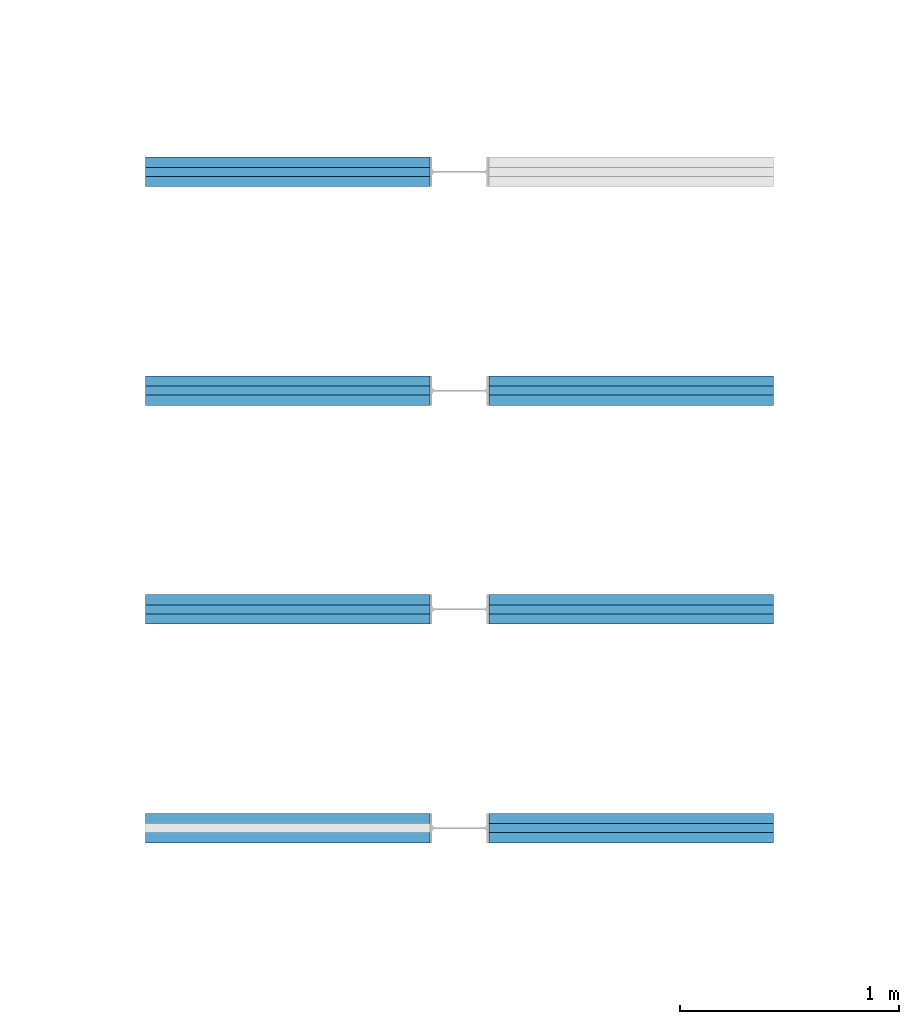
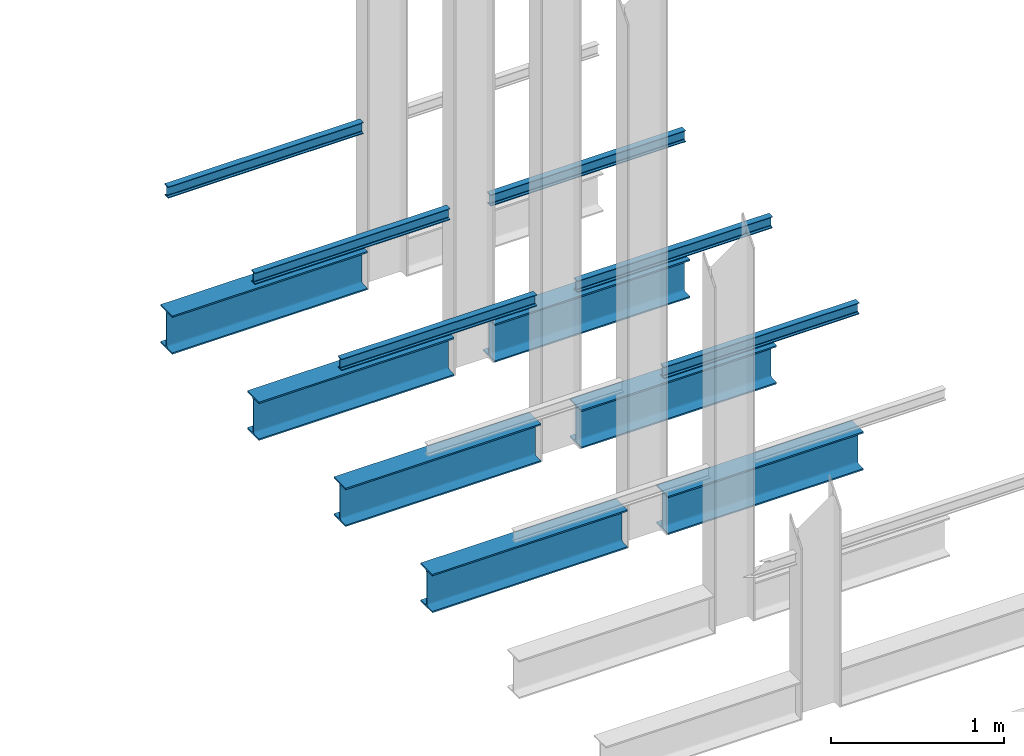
# One storey, part 182 of 302: 13 beams.
"""IFC2X3 building model written with IfcOpenShell, lengths in metres."""

from ifc_helpers import new_model, entity, si_unit, converted_unit, derived_unit, direction, frame, frame_2d, origin, place, context, subcontext, project, spatial, polyline, circle_curve, parameter, trimmed, segment, composite_curve, i_section, outline, extrude, material, type_object, element, save


model = new_model("IFC2X3")

# Units and contexts
model_context = context("Model", 3, precision=1e-05, world=origin(), true_north=direction((6.12303176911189e-17, 1.0)))
body_context = subcontext(model_context, "Body", "Model", "MODEL_VIEW")
ifc_project = project(units=[si_unit("LENGTHUNIT", "METRE"), si_unit("AREAUNIT", "SQUARE_METRE"), si_unit("VOLUMEUNIT", "CUBIC_METRE"), converted_unit("PLANEANGLEUNIT", "DEGREE", entity("IfcRatioMeasure", 0.0174532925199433), si_unit("PLANEANGLEUNIT", "RADIAN"), dimensions=[0, 0, 0, 0, 0, 0, 0]), si_unit("MASSUNIT", "GRAM", prefix="KILO"), derived_unit("MASSDENSITYUNIT", [(si_unit("MASSUNIT", "GRAM", prefix="KILO"), 1), (si_unit("LENGTHUNIT", "METRE"), -3)]), derived_unit("MOMENTOFINERTIAUNIT", [(si_unit("LENGTHUNIT", "METRE"), 4)]), si_unit("TIMEUNIT", "SECOND"), si_unit("FREQUENCYUNIT", "HERTZ"), si_unit("THERMODYNAMICTEMPERATUREUNIT", "DEGREE_CELSIUS"), derived_unit("THERMALTRANSMITTANCEUNIT", [(si_unit("MASSUNIT", "GRAM", prefix="KILO"), 1), (si_unit("THERMODYNAMICTEMPERATUREUNIT", "KELVIN"), -1), (si_unit("TIMEUNIT", "SECOND"), -3)]), derived_unit("VOLUMETRICFLOWRATEUNIT", [(si_unit("LENGTHUNIT", "METRE"), 3), (si_unit("TIMEUNIT", "SECOND"), -1)]), si_unit("ELECTRICCURRENTUNIT", "AMPERE"), si_unit("ELECTRICVOLTAGEUNIT", "VOLT"), si_unit("POWERUNIT", "WATT"), si_unit("FORCEUNIT", "NEWTON", prefix="KILO"), si_unit("ILLUMINANCEUNIT", "LUX"), si_unit("LUMINOUSFLUXUNIT", "LUMEN"), si_unit("LUMINOUSINTENSITYUNIT", "CANDELA"), derived_unit("USERDEFINED", [(si_unit("MASSUNIT", "GRAM", prefix="KILO"), -1), (si_unit("LENGTHUNIT", "METRE"), -2), (si_unit("TIMEUNIT", "SECOND"), 3), (si_unit("LUMINOUSFLUXUNIT", "LUMEN"), 1)]), derived_unit("LINEARVELOCITYUNIT", [(si_unit("LENGTHUNIT", "METRE"), 1), (si_unit("TIMEUNIT", "SECOND"), -1)]), si_unit("PRESSUREUNIT", "PASCAL"), derived_unit("USERDEFINED", [(si_unit("LENGTHUNIT", "METRE"), -2), (si_unit("MASSUNIT", "GRAM", prefix="KILO"), 1), (si_unit("TIMEUNIT", "SECOND"), -2)]), derived_unit("LINEARFORCEUNIT", [(si_unit("MASSUNIT", "GRAM", prefix="KILO"), 1), (si_unit("LENGTHUNIT", "METRE"), 1), (si_unit("TIMEUNIT", "SECOND"), -2), (si_unit("LENGTHUNIT", "METRE"), -1)]), derived_unit("PLANARFORCEUNIT", [(si_unit("MASSUNIT", "GRAM", prefix="KILO"), 1), (si_unit("LENGTHUNIT", "METRE"), 1), (si_unit("TIMEUNIT", "SECOND"), -2), (si_unit("LENGTHUNIT", "METRE"), -2)])], contexts=[model_context])

# Site, building, storey
site_placement = place(None, origin())
site = spatial("IfcSite", under=ifc_project, at=site_placement, Name="Default", CompositionType="ELEMENT")
building_placement = place(site_placement, origin())
building = spatial("IfcBuilding", under=site, at=building_placement, CompositionType="ELEMENT")
storey_placement = place(building_placement, frame((0.0, 0.0, -1.3)))
storey = spatial("IfcBuildingStorey", under=building, at=storey_placement, Name="00_EG", CompositionType="ELEMENT", Elevation=-1.3)

# Beams
ifc_material = material(Name="Metall - Baustahl S235")
beam_type_1 = type_object("IfcBeamType", Name="IPN Träger:IPN 80", PredefinedType="NOTDEFINED")
beam_1_placement = place(storey_placement, frame((-170.780111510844, 55.0365889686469, 2.42), z_axis=(0.0, 0.0, 1.0), x_axis=(-1.0, 0.0, 0.0)))
element("IfcBeam", 1, at=beam_1_placement, inside=storey, type_object=beam_type_1, material=ifc_material, Name="IPN Träger:IPN 80", ObjectType="IPN Träger:IPN 80", context=body_context, shape_type="SweptSolid", body=[
    extrude(outline(composite_curve([segment(polyline([(0.0375704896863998, -0.0209999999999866), (0.0399999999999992, -0.0209999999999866)]), True, "CONTINUOUS"), segment(polyline([(0.0399999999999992, -0.0209999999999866), (0.0399999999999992, 0.0210000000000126)]), True, "CONTINUOUS"), segment(polyline([(0.039999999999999, 0.0210000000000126), (0.037570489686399, 0.0210000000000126)]), True, "CONTINUOUS"), segment(trimmed(circle_curve(frame_2d((0.0375704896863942, 0.0187000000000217), x_axis=(0.0, 1.0)), 0.0022999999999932), [parameter(0.0)], [parameter(82.0300000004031)], True, "PARAMETER"), True, "CONTINUOUS"), segment(polyline([(0.0352927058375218, 0.0190189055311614), (0.0333732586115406, 0.00530924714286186)]), True, "CONTINUOUS"), segment(trimmed(circle_curve(frame_2d((0.0295109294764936, 0.00585000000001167), x_axis=(0.990340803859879, -0.138654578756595)), 0.00389999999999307), [parameter(277.969999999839)], [parameter(0.0)], True, "PARAMETER"), False, "CONTINUOUS"), segment(polyline([(0.0295109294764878, 0.00195000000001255), (-0.0295109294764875, 0.00195000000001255)]), True, "CONTINUOUS"), segment(trimmed(circle_curve(frame_2d((-0.0295109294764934, 0.00585000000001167), x_axis=(0.0, -1.0)), 0.00389999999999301), [parameter(277.969999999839)], [parameter(0.0)], True, "PARAMETER"), False, "CONTINUOUS"), segment(polyline([(-0.0333732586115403, 0.00530924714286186), (-0.0352927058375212, 0.0190189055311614)]), True, "CONTINUOUS"), segment(trimmed(circle_curve(frame_2d((-0.0375704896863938, 0.0187000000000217), x_axis=(0.990340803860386, 0.138654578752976)), 0.00229999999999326), [parameter(0.0)], [parameter(82.0300000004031)], True, "PARAMETER"), True, "CONTINUOUS"), segment(polyline([(-0.0375704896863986, 0.0210000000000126), (-0.0400000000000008, 0.0210000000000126)]), True, "CONTINUOUS"), segment(polyline([(-0.0400000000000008, 0.0210000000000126), (-0.0400000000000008, -0.0209999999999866)]), True, "CONTINUOUS"), segment(polyline([(-0.0400000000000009, -0.0209999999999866), (-0.037570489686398, -0.0209999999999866)]), True, "CONTINUOUS"), segment(trimmed(circle_curve(frame_2d((-0.0375704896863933, -0.0186999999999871), x_axis=(0.0, -1.0)), 0.00229999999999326), [parameter(0.0)], [parameter(82.0300000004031)], True, "PARAMETER"), True, "CONTINUOUS"), segment(polyline([(-0.0352927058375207, -0.0190189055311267), (-0.0333732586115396, -0.00530924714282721)]), True, "CONTINUOUS"), segment(trimmed(circle_curve(frame_2d((-0.0295109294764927, -0.00584999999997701), x_axis=(-0.990340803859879, 0.138654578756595)), 0.00389999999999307), [parameter(277.969999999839)], [parameter(0.0)], True, "PARAMETER"), False, "CONTINUOUS"), segment(polyline([(-0.0295109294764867, -0.00194999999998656), (0.0295109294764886, -0.00194999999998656)]), True, "CONTINUOUS"), segment(trimmed(circle_curve(frame_2d((0.0295109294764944, -0.00584999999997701), x_axis=(0.0, 1.0)), 0.00389999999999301), [parameter(277.969999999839)], [parameter(0.0)], True, "PARAMETER"), False, "CONTINUOUS"), segment(polyline([(0.0333732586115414, -0.00530924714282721), (0.0352927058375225, -0.0190189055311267)]), True, "CONTINUOUS"), segment(trimmed(circle_curve(frame_2d((0.0375704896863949, -0.0186999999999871), x_axis=(-0.990340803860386, -0.138654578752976)), 0.00229999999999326), [parameter(0.0)], [parameter(82.0300000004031)], True, "PARAMETER"), True, "CONTINUOUS")], self_intersect=False)), frame((0.000100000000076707, 0.0209999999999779, -0.0400000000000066), z_axis=(1.0, 0.0, 0.0), x_axis=(0.0, 0.0, -1.0)), (0.0, 0.0, 1.0), 1.29990000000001),
])
beam_2_placement = place(storey_placement, frame((-170.510111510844, 53.9945889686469, 2.42)))
element("IfcBeam", 2, at=beam_2_placement, inside=storey, type_object=beam_type_1, material=ifc_material, Name="IPN Träger:IPN 80", ObjectType="IPN Träger:IPN 80", context=body_context, shape_type="SweptSolid", body=[
    extrude(outline(composite_curve([segment(polyline([(0.0375704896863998, -0.0210000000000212), (0.0399999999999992, -0.0210000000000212)]), True, "CONTINUOUS"), segment(polyline([(0.0399999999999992, -0.0210000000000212), (0.0399999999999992, 0.0209999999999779)]), True, "CONTINUOUS"), segment(polyline([(0.039999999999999, 0.0209999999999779), (0.037570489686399, 0.0209999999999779)]), True, "CONTINUOUS"), segment(trimmed(circle_curve(frame_2d((0.0375704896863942, 0.0186999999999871), x_axis=(0.0, 1.0)), 0.0022999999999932), [parameter(0.0)], [parameter(82.0300000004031)], True, "PARAMETER"), True, "CONTINUOUS"), segment(polyline([(0.0352927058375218, 0.0190189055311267), (0.0333732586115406, 0.00530924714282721)]), True, "CONTINUOUS"), segment(trimmed(circle_curve(frame_2d((0.0295109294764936, 0.00584999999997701), x_axis=(0.990340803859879, -0.138654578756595)), 0.00389999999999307), [parameter(277.969999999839)], [parameter(0.0)], True, "PARAMETER"), False, "CONTINUOUS"), segment(polyline([(0.0295109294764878, 0.0019499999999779), (-0.0295109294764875, 0.0019499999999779)]), True, "CONTINUOUS"), segment(trimmed(circle_curve(frame_2d((-0.0295109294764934, 0.00584999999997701), x_axis=(0.0, -1.0)), 0.00389999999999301), [parameter(277.969999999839)], [parameter(0.0)], True, "PARAMETER"), False, "CONTINUOUS"), segment(polyline([(-0.0333732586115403, 0.00530924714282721), (-0.0352927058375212, 0.0190189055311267)]), True, "CONTINUOUS"), segment(trimmed(circle_curve(frame_2d((-0.0375704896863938, 0.0186999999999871), x_axis=(0.990340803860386, 0.138654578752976)), 0.00229999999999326), [parameter(0.0)], [parameter(82.0300000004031)], True, "PARAMETER"), True, "CONTINUOUS"), segment(polyline([(-0.0375704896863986, 0.0209999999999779), (-0.0400000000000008, 0.0209999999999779)]), True, "CONTINUOUS"), segment(polyline([(-0.0400000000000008, 0.0209999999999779), (-0.0400000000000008, -0.0210000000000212)]), True, "CONTINUOUS"), segment(polyline([(-0.0400000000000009, -0.0210000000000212), (-0.037570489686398, -0.0210000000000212)]), True, "CONTINUOUS"), segment(trimmed(circle_curve(frame_2d((-0.0375704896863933, -0.0187000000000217), x_axis=(0.0, -1.0)), 0.00229999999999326), [parameter(0.0)], [parameter(82.0300000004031)], True, "PARAMETER"), True, "CONTINUOUS"), segment(polyline([(-0.0352927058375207, -0.0190189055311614), (-0.0333732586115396, -0.00530924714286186)]), True, "CONTINUOUS"), segment(trimmed(circle_curve(frame_2d((-0.0295109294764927, -0.00585000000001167), x_axis=(-0.990340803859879, 0.138654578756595)), 0.00389999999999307), [parameter(277.969999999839)], [parameter(0.0)], True, "PARAMETER"), False, "CONTINUOUS"), segment(polyline([(-0.0295109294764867, -0.00195000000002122), (0.0295109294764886, -0.00195000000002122)]), True, "CONTINUOUS"), segment(trimmed(circle_curve(frame_2d((0.0295109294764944, -0.00585000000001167), x_axis=(0.0, 1.0)), 0.00389999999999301), [parameter(277.969999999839)], [parameter(0.0)], True, "PARAMETER"), False, "CONTINUOUS"), segment(polyline([(0.0333732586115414, -0.00530924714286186), (0.0352927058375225, -0.0190189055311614)]), True, "CONTINUOUS"), segment(trimmed(circle_curve(frame_2d((0.0375704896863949, -0.0187000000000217), x_axis=(-0.990340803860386, -0.138654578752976)), 0.00229999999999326), [parameter(0.0)], [parameter(82.0300000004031)], True, "PARAMETER"), True, "CONTINUOUS")], self_intersect=False)), frame((0.000100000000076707, 0.0210000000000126, -0.0400000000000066), z_axis=(1.0, 0.0, 0.0), x_axis=(0.0, 0.0, -1.0)), (0.0, 0.0, 1.0), 1.29990000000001),
])
beam_3_placement = place(storey_placement, frame((-170.780111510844, 54.0365889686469, 2.42), z_axis=(0.0, 0.0, 1.0), x_axis=(-1.0, 0.0, 0.0)))
element("IfcBeam", 3, at=beam_3_placement, inside=storey, type_object=beam_type_1, material=ifc_material, Name="IPN Träger:IPN 80", ObjectType="IPN Träger:IPN 80", context=body_context, shape_type="SweptSolid", body=[
    extrude(outline(composite_curve([segment(polyline([(0.0375704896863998, -0.0209999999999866), (0.0399999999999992, -0.0209999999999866)]), True, "CONTINUOUS"), segment(polyline([(0.0399999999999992, -0.0209999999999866), (0.0399999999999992, 0.0210000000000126)]), True, "CONTINUOUS"), segment(polyline([(0.039999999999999, 0.0210000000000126), (0.037570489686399, 0.0210000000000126)]), True, "CONTINUOUS"), segment(trimmed(circle_curve(frame_2d((0.0375704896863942, 0.0187000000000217), x_axis=(0.0, 1.0)), 0.0022999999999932), [parameter(0.0)], [parameter(82.0300000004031)], True, "PARAMETER"), True, "CONTINUOUS"), segment(polyline([(0.0352927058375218, 0.0190189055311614), (0.0333732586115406, 0.00530924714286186)]), True, "CONTINUOUS"), segment(trimmed(circle_curve(frame_2d((0.0295109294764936, 0.00585000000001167), x_axis=(0.990340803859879, -0.138654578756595)), 0.00389999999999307), [parameter(277.969999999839)], [parameter(0.0)], True, "PARAMETER"), False, "CONTINUOUS"), segment(polyline([(0.0295109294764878, 0.00195000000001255), (-0.0295109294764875, 0.00195000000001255)]), True, "CONTINUOUS"), segment(trimmed(circle_curve(frame_2d((-0.0295109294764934, 0.00585000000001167), x_axis=(0.0, -1.0)), 0.00389999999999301), [parameter(277.969999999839)], [parameter(0.0)], True, "PARAMETER"), False, "CONTINUOUS"), segment(polyline([(-0.0333732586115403, 0.00530924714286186), (-0.0352927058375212, 0.0190189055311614)]), True, "CONTINUOUS"), segment(trimmed(circle_curve(frame_2d((-0.0375704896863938, 0.0187000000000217), x_axis=(0.990340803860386, 0.138654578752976)), 0.00229999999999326), [parameter(0.0)], [parameter(82.0300000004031)], True, "PARAMETER"), True, "CONTINUOUS"), segment(polyline([(-0.0375704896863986, 0.0210000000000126), (-0.0400000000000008, 0.0210000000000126)]), True, "CONTINUOUS"), segment(polyline([(-0.0400000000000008, 0.0210000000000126), (-0.0400000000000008, -0.0209999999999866)]), True, "CONTINUOUS"), segment(polyline([(-0.0400000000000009, -0.0209999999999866), (-0.037570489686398, -0.0209999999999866)]), True, "CONTINUOUS"), segment(trimmed(circle_curve(frame_2d((-0.0375704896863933, -0.0186999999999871), x_axis=(0.0, -1.0)), 0.00229999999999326), [parameter(0.0)], [parameter(82.0300000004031)], True, "PARAMETER"), True, "CONTINUOUS"), segment(polyline([(-0.0352927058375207, -0.0190189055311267), (-0.0333732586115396, -0.00530924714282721)]), True, "CONTINUOUS"), segment(trimmed(circle_curve(frame_2d((-0.0295109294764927, -0.00584999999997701), x_axis=(-0.990340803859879, 0.138654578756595)), 0.00389999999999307), [parameter(277.969999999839)], [parameter(0.0)], True, "PARAMETER"), False, "CONTINUOUS"), segment(polyline([(-0.0295109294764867, -0.00194999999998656), (0.0295109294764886, -0.00194999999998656)]), True, "CONTINUOUS"), segment(trimmed(circle_curve(frame_2d((0.0295109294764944, -0.00584999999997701), x_axis=(0.0, 1.0)), 0.00389999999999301), [parameter(277.969999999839)], [parameter(0.0)], True, "PARAMETER"), False, "CONTINUOUS"), segment(polyline([(0.0333732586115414, -0.00530924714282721), (0.0352927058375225, -0.0190189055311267)]), True, "CONTINUOUS"), segment(trimmed(circle_curve(frame_2d((0.0375704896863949, -0.0186999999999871), x_axis=(-0.990340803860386, -0.138654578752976)), 0.00229999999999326), [parameter(0.0)], [parameter(82.0300000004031)], True, "PARAMETER"), True, "CONTINUOUS")], self_intersect=False)), frame((0.000100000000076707, 0.0209999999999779, -0.0400000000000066), z_axis=(1.0, 0.0, 0.0), x_axis=(0.0, 0.0, -1.0)), (0.0, 0.0, 1.0), 1.29990000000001),
])
beam_4_placement = place(storey_placement, frame((-170.510111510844, 52.9945889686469, 2.42)))
element("IfcBeam", 4, at=beam_4_placement, inside=storey, type_object=beam_type_1, material=ifc_material, Name="IPN Träger:IPN 80", ObjectType="IPN Träger:IPN 80", context=body_context, shape_type="SweptSolid", body=[
    extrude(outline(composite_curve([segment(polyline([(0.0375704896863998, -0.0210000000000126), (0.0399999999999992, -0.0210000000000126)]), True, "CONTINUOUS"), segment(polyline([(0.0399999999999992, -0.0210000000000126), (0.0399999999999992, 0.0209999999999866)]), True, "CONTINUOUS"), segment(polyline([(0.039999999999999, 0.0209999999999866), (0.037570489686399, 0.0209999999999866)]), True, "CONTINUOUS"), segment(trimmed(circle_curve(frame_2d((0.0375704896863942, 0.0186999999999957), x_axis=(0.0, 1.0)), 0.0022999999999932), [parameter(0.0)], [parameter(82.0300000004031)], True, "PARAMETER"), True, "CONTINUOUS"), segment(polyline([(0.0352927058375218, 0.0190189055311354), (0.0333732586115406, 0.00530924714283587)]), True, "CONTINUOUS"), segment(trimmed(circle_curve(frame_2d((0.0295109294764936, 0.00584999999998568), x_axis=(0.990340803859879, -0.138654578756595)), 0.00389999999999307), [parameter(277.969999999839)], [parameter(0.0)], True, "PARAMETER"), False, "CONTINUOUS"), segment(polyline([(0.0295109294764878, 0.00194999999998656), (-0.0295109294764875, 0.00194999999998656)]), True, "CONTINUOUS"), segment(trimmed(circle_curve(frame_2d((-0.0295109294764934, 0.00584999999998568), x_axis=(0.0, -1.0)), 0.00389999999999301), [parameter(277.969999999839)], [parameter(0.0)], True, "PARAMETER"), False, "CONTINUOUS"), segment(polyline([(-0.0333732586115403, 0.00530924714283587), (-0.0352927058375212, 0.0190189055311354)]), True, "CONTINUOUS"), segment(trimmed(circle_curve(frame_2d((-0.0375704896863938, 0.0186999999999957), x_axis=(0.990340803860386, 0.138654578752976)), 0.00229999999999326), [parameter(0.0)], [parameter(82.0300000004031)], True, "PARAMETER"), True, "CONTINUOUS"), segment(polyline([(-0.0375704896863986, 0.0209999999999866), (-0.0400000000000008, 0.0209999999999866)]), True, "CONTINUOUS"), segment(polyline([(-0.0400000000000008, 0.0209999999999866), (-0.0400000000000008, -0.0210000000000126)]), True, "CONTINUOUS"), segment(polyline([(-0.0400000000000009, -0.0210000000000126), (-0.037570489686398, -0.0210000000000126)]), True, "CONTINUOUS"), segment(trimmed(circle_curve(frame_2d((-0.0375704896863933, -0.0187000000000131), x_axis=(0.0, -1.0)), 0.00229999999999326), [parameter(0.0)], [parameter(82.0300000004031)], True, "PARAMETER"), True, "CONTINUOUS"), segment(polyline([(-0.0352927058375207, -0.0190189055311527), (-0.0333732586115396, -0.0053092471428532)]), True, "CONTINUOUS"), segment(trimmed(circle_curve(frame_2d((-0.0295109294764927, -0.005850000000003), x_axis=(-0.990340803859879, 0.138654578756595)), 0.00389999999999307), [parameter(277.969999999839)], [parameter(0.0)], True, "PARAMETER"), False, "CONTINUOUS"), segment(polyline([(-0.0295109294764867, -0.00195000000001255), (0.0295109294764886, -0.00195000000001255)]), True, "CONTINUOUS"), segment(trimmed(circle_curve(frame_2d((0.0295109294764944, -0.005850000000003), x_axis=(0.0, 1.0)), 0.00389999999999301), [parameter(277.969999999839)], [parameter(0.0)], True, "PARAMETER"), False, "CONTINUOUS"), segment(polyline([(0.0333732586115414, -0.0053092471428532), (0.0352927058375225, -0.0190189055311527)]), True, "CONTINUOUS"), segment(trimmed(circle_curve(frame_2d((0.0375704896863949, -0.0187000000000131), x_axis=(-0.990340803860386, -0.138654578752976)), 0.00229999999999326), [parameter(0.0)], [parameter(82.0300000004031)], True, "PARAMETER"), True, "CONTINUOUS")], self_intersect=False)), frame((0.000100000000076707, 0.0210000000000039, -0.0400000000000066), z_axis=(1.0, 0.0, 0.0), x_axis=(0.0, 0.0, -1.0)), (0.0, 0.0, 1.0), 1.29990000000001),
])
beam_5_placement = place(storey_placement, frame((-170.780111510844, 53.0365889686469, 2.42), z_axis=(0.0, 0.0, 1.0), x_axis=(-1.0, 0.0, 0.0)))
element("IfcBeam", 5, at=beam_5_placement, inside=storey, type_object=beam_type_1, material=ifc_material, Name="IPN Träger:IPN 80", ObjectType="IPN Träger:IPN 80", context=body_context, shape_type="SweptSolid", body=[
    extrude(outline(composite_curve([segment(polyline([(0.0375704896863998, -0.0210000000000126), (0.0399999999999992, -0.0210000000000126)]), True, "CONTINUOUS"), segment(polyline([(0.0399999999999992, -0.0210000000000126), (0.0399999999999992, 0.0209999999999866)]), True, "CONTINUOUS"), segment(polyline([(0.039999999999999, 0.0209999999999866), (0.037570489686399, 0.0209999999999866)]), True, "CONTINUOUS"), segment(trimmed(circle_curve(frame_2d((0.0375704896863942, 0.0186999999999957), x_axis=(0.0, 1.0)), 0.0022999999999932), [parameter(0.0)], [parameter(82.0300000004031)], True, "PARAMETER"), True, "CONTINUOUS"), segment(polyline([(0.0352927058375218, 0.0190189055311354), (0.0333732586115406, 0.00530924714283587)]), True, "CONTINUOUS"), segment(trimmed(circle_curve(frame_2d((0.0295109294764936, 0.00584999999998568), x_axis=(0.990340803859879, -0.138654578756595)), 0.00389999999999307), [parameter(277.969999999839)], [parameter(0.0)], True, "PARAMETER"), False, "CONTINUOUS"), segment(polyline([(0.0295109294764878, 0.00194999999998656), (-0.0295109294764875, 0.00194999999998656)]), True, "CONTINUOUS"), segment(trimmed(circle_curve(frame_2d((-0.0295109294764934, 0.00584999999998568), x_axis=(0.0, -1.0)), 0.00389999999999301), [parameter(277.969999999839)], [parameter(0.0)], True, "PARAMETER"), False, "CONTINUOUS"), segment(polyline([(-0.0333732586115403, 0.00530924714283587), (-0.0352927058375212, 0.0190189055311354)]), True, "CONTINUOUS"), segment(trimmed(circle_curve(frame_2d((-0.0375704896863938, 0.0186999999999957), x_axis=(0.990340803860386, 0.138654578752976)), 0.00229999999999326), [parameter(0.0)], [parameter(82.0300000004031)], True, "PARAMETER"), True, "CONTINUOUS"), segment(polyline([(-0.0375704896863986, 0.0209999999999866), (-0.0400000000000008, 0.0209999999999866)]), True, "CONTINUOUS"), segment(polyline([(-0.0400000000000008, 0.0209999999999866), (-0.0400000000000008, -0.0210000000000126)]), True, "CONTINUOUS"), segment(polyline([(-0.0400000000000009, -0.0210000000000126), (-0.037570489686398, -0.0210000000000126)]), True, "CONTINUOUS"), segment(trimmed(circle_curve(frame_2d((-0.0375704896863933, -0.0187000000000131), x_axis=(0.0, -1.0)), 0.00229999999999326), [parameter(0.0)], [parameter(82.0300000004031)], True, "PARAMETER"), True, "CONTINUOUS"), segment(polyline([(-0.0352927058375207, -0.0190189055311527), (-0.0333732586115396, -0.0053092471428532)]), True, "CONTINUOUS"), segment(trimmed(circle_curve(frame_2d((-0.0295109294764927, -0.005850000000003), x_axis=(-0.990340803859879, 0.138654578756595)), 0.00389999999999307), [parameter(277.969999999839)], [parameter(0.0)], True, "PARAMETER"), False, "CONTINUOUS"), segment(polyline([(-0.0295109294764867, -0.00195000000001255), (0.0295109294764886, -0.00195000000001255)]), True, "CONTINUOUS"), segment(trimmed(circle_curve(frame_2d((0.0295109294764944, -0.005850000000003), x_axis=(0.0, 1.0)), 0.00389999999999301), [parameter(277.969999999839)], [parameter(0.0)], True, "PARAMETER"), False, "CONTINUOUS"), segment(polyline([(0.0333732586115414, -0.0053092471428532), (0.0352927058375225, -0.0190189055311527)]), True, "CONTINUOUS"), segment(trimmed(circle_curve(frame_2d((0.0375704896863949, -0.0187000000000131), x_axis=(-0.990340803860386, -0.138654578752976)), 0.00229999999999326), [parameter(0.0)], [parameter(82.0300000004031)], True, "PARAMETER"), True, "CONTINUOUS")], self_intersect=False)), frame((0.000100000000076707, 0.0210000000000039, -0.0400000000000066), z_axis=(1.0, 0.0, 0.0), x_axis=(0.0, 0.0, -1.0)), (0.0, 0.0, 1.0), 1.29990000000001),
])
beam_6_placement = place(storey_placement, frame((-170.510111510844, 51.9945889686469, 2.42)))
element("IfcBeam", 6, at=beam_6_placement, inside=storey, type_object=beam_type_1, material=ifc_material, Name="IPN Träger:IPN 80", ObjectType="IPN Träger:IPN 80", context=body_context, shape_type="SweptSolid", body=[
    extrude(outline(composite_curve([segment(polyline([(0.0375704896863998, -0.0209999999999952), (0.0399999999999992, -0.0209999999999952)]), True, "CONTINUOUS"), segment(polyline([(0.0399999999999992, -0.0209999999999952), (0.0399999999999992, 0.0210000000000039)]), True, "CONTINUOUS"), segment(polyline([(0.039999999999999, 0.0210000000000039), (0.037570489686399, 0.0210000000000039)]), True, "CONTINUOUS"), segment(trimmed(circle_curve(frame_2d((0.0375704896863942, 0.0187000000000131), x_axis=(0.0, 1.0)), 0.0022999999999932), [parameter(0.0)], [parameter(82.0300000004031)], True, "PARAMETER"), True, "CONTINUOUS"), segment(polyline([(0.0352927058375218, 0.0190189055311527), (0.0333732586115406, 0.0053092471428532)]), True, "CONTINUOUS"), segment(trimmed(circle_curve(frame_2d((0.0295109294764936, 0.005850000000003), x_axis=(0.990340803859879, -0.138654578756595)), 0.00389999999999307), [parameter(277.969999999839)], [parameter(0.0)], True, "PARAMETER"), False, "CONTINUOUS"), segment(polyline([(0.0295109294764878, 0.00195000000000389), (-0.0295109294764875, 0.00195000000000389)]), True, "CONTINUOUS"), segment(trimmed(circle_curve(frame_2d((-0.0295109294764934, 0.005850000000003), x_axis=(0.0, -1.0)), 0.00389999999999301), [parameter(277.969999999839)], [parameter(0.0)], True, "PARAMETER"), False, "CONTINUOUS"), segment(polyline([(-0.0333732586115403, 0.0053092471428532), (-0.0352927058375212, 0.0190189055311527)]), True, "CONTINUOUS"), segment(trimmed(circle_curve(frame_2d((-0.0375704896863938, 0.0187000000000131), x_axis=(0.990340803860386, 0.138654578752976)), 0.00229999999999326), [parameter(0.0)], [parameter(82.0300000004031)], True, "PARAMETER"), True, "CONTINUOUS"), segment(polyline([(-0.0375704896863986, 0.0210000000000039), (-0.0400000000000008, 0.0210000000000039)]), True, "CONTINUOUS"), segment(polyline([(-0.0400000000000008, 0.0210000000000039), (-0.0400000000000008, -0.0209999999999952)]), True, "CONTINUOUS"), segment(polyline([(-0.0400000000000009, -0.0209999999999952), (-0.037570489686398, -0.0209999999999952)]), True, "CONTINUOUS"), segment(trimmed(circle_curve(frame_2d((-0.0375704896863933, -0.0186999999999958), x_axis=(0.0, -1.0)), 0.00229999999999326), [parameter(0.0)], [parameter(82.0300000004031)], True, "PARAMETER"), True, "CONTINUOUS"), segment(polyline([(-0.0352927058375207, -0.0190189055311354), (-0.0333732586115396, -0.00530924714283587)]), True, "CONTINUOUS"), segment(trimmed(circle_curve(frame_2d((-0.0295109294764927, -0.00584999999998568), x_axis=(-0.990340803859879, 0.138654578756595)), 0.00389999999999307), [parameter(277.969999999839)], [parameter(0.0)], True, "PARAMETER"), False, "CONTINUOUS"), segment(polyline([(-0.0295109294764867, -0.00194999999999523), (0.0295109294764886, -0.00194999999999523)]), True, "CONTINUOUS"), segment(trimmed(circle_curve(frame_2d((0.0295109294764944, -0.00584999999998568), x_axis=(0.0, 1.0)), 0.00389999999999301), [parameter(277.969999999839)], [parameter(0.0)], True, "PARAMETER"), False, "CONTINUOUS"), segment(polyline([(0.0333732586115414, -0.00530924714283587), (0.0352927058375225, -0.0190189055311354)]), True, "CONTINUOUS"), segment(trimmed(circle_curve(frame_2d((0.0375704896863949, -0.0186999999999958), x_axis=(-0.990340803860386, -0.138654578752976)), 0.00229999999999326), [parameter(0.0)], [parameter(82.0300000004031)], True, "PARAMETER"), True, "CONTINUOUS")], self_intersect=False)), frame((0.000100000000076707, 0.0209999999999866, -0.0400000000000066), z_axis=(1.0, 0.0, 0.0), x_axis=(0.0, 0.0, -1.0)), (0.0, 0.0, 1.0), 1.29990000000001),
])
beam_type_2 = type_object("IfcBeamType", Name="IPE Träger:IPE 270", PredefinedType="NOTDEFINED")
beam_7_placement = place(storey_placement, frame((-170.780111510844, 52.0830889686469, 1.54000000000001), z_axis=(0.0, 0.0, 1.0), x_axis=(-1.0, 0.0, 0.0)))
element("IfcBeam", 7, at=beam_7_placement, inside=storey, type_object=beam_type_2, material=ifc_material, Name="IPE Träger:IPE 270", ObjectType="IPE Träger:IPE 270", context=body_context, shape_type="SweptSolid", body=[
    extrude(i_section(OverallWidth=0.134999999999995, OverallDepth=0.27, WebThickness=0.0065999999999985, FlangeThickness=0.0102000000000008, FilletRadius=0.0149999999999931, at=frame_2d((5.96744875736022e-16, 8.66667848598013e-15), x_axis=(0.0, 1.0))), frame((0.00010000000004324, 0.0674999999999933, -0.135000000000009), z_axis=(1.0, 0.0, 0.0), x_axis=(0.0, 0.0, -1.0)), (0.0, 0.0, 1.0), 1.29990000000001),
])
beam_8_placement = place(storey_placement, frame((-170.510111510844, 52.0830889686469, 1.54000000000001)))
element("IfcBeam", 8, at=beam_8_placement, inside=storey, type_object=beam_type_2, material=ifc_material, Name="IPE Träger:IPE 270", ObjectType="IPE Träger:IPE 270", context=body_context, shape_type="SweptSolid", body=[
    extrude(i_section(OverallWidth=0.134999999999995, OverallDepth=0.27, WebThickness=0.0065999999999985, FlangeThickness=0.0102000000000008, FilletRadius=0.0149999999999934, at=frame_2d((5.96744875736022e-16, 0.0), x_axis=(0.0, 1.0))), frame((0.00010000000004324, -0.067500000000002, -0.135000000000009), z_axis=(1.0, 0.0, 0.0), x_axis=(0.0, 0.0, -1.0)), (0.0, 0.0, 1.0), 1.29990000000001),
])
beam_9_placement = place(storey_placement, frame((-170.780111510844, 53.0830889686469, 1.54000000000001), z_axis=(0.0, 0.0, 1.0), x_axis=(-1.0, 0.0, 0.0)))
element("IfcBeam", 9, at=beam_9_placement, inside=storey, type_object=beam_type_2, material=ifc_material, Name="IPE Träger:IPE 270", ObjectType="IPE Träger:IPE 270", context=body_context, shape_type="SweptSolid", body=[
    extrude(i_section(OverallWidth=0.134999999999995, OverallDepth=0.27, WebThickness=0.0065999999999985, FlangeThickness=0.0102000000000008, FilletRadius=0.0149999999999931, at=frame_2d((5.96744875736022e-16, -8.66667848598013e-15), x_axis=(0.0, 1.0))), frame((0.000100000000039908, 0.0675000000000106, -0.135000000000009), z_axis=(1.0, 0.0, 0.0), x_axis=(0.0, 0.0, -1.0)), (0.0, 0.0, 1.0), 1.29990000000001),
])
beam_10_placement = place(storey_placement, frame((-170.510111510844, 53.0830889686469, 1.54000000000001)))
element("IfcBeam", 10, at=beam_10_placement, inside=storey, type_object=beam_type_2, material=ifc_material, Name="IPE Träger:IPE 270", ObjectType="IPE Träger:IPE 270", context=body_context, shape_type="SweptSolid", body=[
    extrude(i_section(OverallWidth=0.134999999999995, OverallDepth=0.27, WebThickness=0.0065999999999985, FlangeThickness=0.0102000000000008, FilletRadius=0.0149999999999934, at=frame_2d((5.96744875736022e-16, 0.0), x_axis=(0.0, 1.0))), frame((0.000100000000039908, -0.067500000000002, -0.135000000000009), z_axis=(1.0, 0.0, 0.0), x_axis=(0.0, 0.0, -1.0)), (0.0, 0.0, 1.0), 1.29990000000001),
])
beam_11_placement = place(storey_placement, frame((-170.780111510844, 54.0830889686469, 1.54000000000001), z_axis=(0.0, 0.0, 1.0), x_axis=(-1.0, 0.0, 0.0)))
element("IfcBeam", 11, at=beam_11_placement, inside=storey, type_object=beam_type_2, material=ifc_material, Name="IPE Träger:IPE 270", ObjectType="IPE Träger:IPE 270", context=body_context, shape_type="SweptSolid", body=[
    extrude(i_section(OverallWidth=0.134999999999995, OverallDepth=0.27, WebThickness=0.0065999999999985, FlangeThickness=0.0102000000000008, FilletRadius=0.0149999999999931, at=frame_2d((5.96744875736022e-16, -8.66667848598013e-15), x_axis=(0.0, 1.0))), frame((0.000100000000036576, 0.0675000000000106, -0.135000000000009), z_axis=(1.0, 0.0, 0.0), x_axis=(0.0, 0.0, -1.0)), (0.0, 0.0, 1.0), 1.29990000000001),
])
beam_12_placement = place(storey_placement, frame((-170.510111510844, 54.0830889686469, 1.54000000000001)))
element("IfcBeam", 12, at=beam_12_placement, inside=storey, type_object=beam_type_2, material=ifc_material, Name="IPE Träger:IPE 270", ObjectType="IPE Träger:IPE 270", context=body_context, shape_type="SweptSolid", body=[
    extrude(i_section(OverallWidth=0.134999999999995, OverallDepth=0.27, WebThickness=0.0065999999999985, FlangeThickness=0.0102000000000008, FilletRadius=0.0149999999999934, at=frame_2d((5.96744875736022e-16, 0.0), x_axis=(0.0, 1.0))), frame((0.000100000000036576, -0.067500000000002, -0.135000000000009), z_axis=(1.0, 0.0, 0.0), x_axis=(0.0, 0.0, -1.0)), (0.0, 0.0, 1.0), 1.29990000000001),
])
beam_13_placement = place(storey_placement, frame((-170.780111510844, 55.0830889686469, 1.54000000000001), z_axis=(0.0, 0.0, 1.0), x_axis=(-1.0, 0.0, 0.0)))
element("IfcBeam", 13, at=beam_13_placement, inside=storey, type_object=beam_type_2, material=ifc_material, Name="IPE Träger:IPE 270", ObjectType="IPE Träger:IPE 270", context=body_context, shape_type="SweptSolid", body=[
    extrude(i_section(OverallWidth=0.134999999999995, OverallDepth=0.27, WebThickness=0.0065999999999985, FlangeThickness=0.0102000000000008, FilletRadius=0.0149999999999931, at=frame_2d((5.96744875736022e-16, 8.66667848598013e-15), x_axis=(0.0, 1.0))), frame((0.000100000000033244, 0.0674999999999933, -0.135000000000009), z_axis=(1.0, 0.0, 0.0), x_axis=(0.0, 0.0, -1.0)), (0.0, 0.0, 1.0), 1.29990000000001),
])

save(model, "model.ifc")
